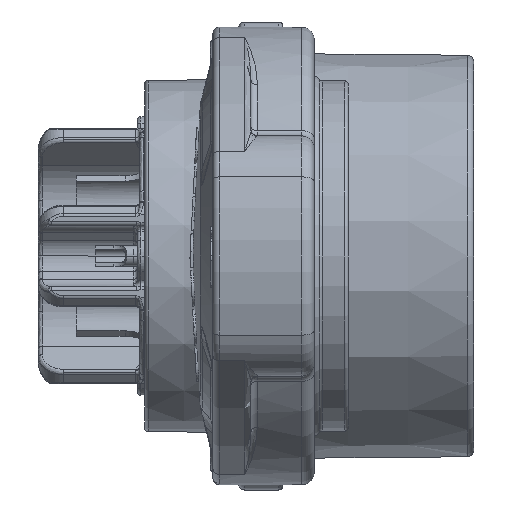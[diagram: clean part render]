
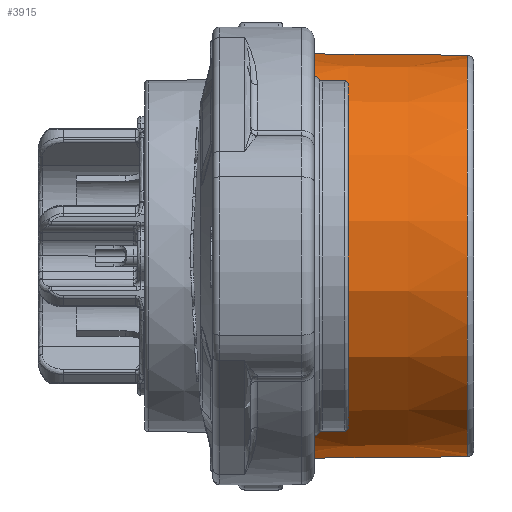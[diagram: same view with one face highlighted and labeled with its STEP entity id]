
A CAD part, front view. The second image highlights one B-rep face of the part: STEP entity #3915.
In plain terms, the highlighted conical face has half-angle 0.5 degrees and reference radius 16 mm.
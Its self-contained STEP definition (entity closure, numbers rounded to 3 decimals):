
#1006 = AXIS2_PLACEMENT_3D ( 'NONE', #67295, #38787, #27352 ) ;
#2657 = LINE ( 'NONE', #22821, #36290 ) ;
#3915 = ADVANCED_FACE ( 'NONE', ( #18780 ), #75175, .T. ) ;
#6166 = ORIENTED_EDGE ( 'NONE', *, *, #24798, .F. ) ;
#7173 = CARTESIAN_POINT ( 'NONE',  ( -14.604, 0., -15.996 ) ) ;
#7771 = ORIENTED_EDGE ( 'NONE', *, *, #32428, .T. ) ;
#13719 = EDGE_CURVE ( 'NONE', #42737, #24421, #46172, .T. ) ;
#15508 = VERTEX_POINT ( 'NONE', #45903 ) ;
#18470 = AXIS2_PLACEMENT_3D ( 'NONE', #69354, #23814, #46403 ) ;
#18780 = FACE_OUTER_BOUND ( 'NONE', #34297, .T. ) ;
#19609 = CIRCLE ( 'NONE', #18470, 15.873 ) ;
#22821 = CARTESIAN_POINT ( 'NONE',  ( -15.1, 0., -16. ) ) ;
#23814 = DIRECTION ( 'NONE',  ( -1., 0., 0. ) ) ;
#24421 = VERTEX_POINT ( 'NONE', #53615 ) ;
#24798 = EDGE_CURVE ( 'NONE', #15508, #71075, #2657, .T. ) ;
#26704 = CIRCLE ( 'NONE', #1006, 15.996 ) ;
#27352 = DIRECTION ( 'NONE',  ( 0., 0., 1. ) ) ;
#28875 = DIRECTION ( 'NONE',  ( -1., 0., -0.009 ) ) ;
#32428 = EDGE_CURVE ( 'NONE', #15508, #42737, #19609, .T. ) ;
#34297 = EDGE_LOOP ( 'NONE', ( #7771, #58189, #62599, #6166 ) ) ;
#36290 = VECTOR ( 'NONE', #28875, 1000. ) ;
#38787 = DIRECTION ( 'NONE',  ( 1., 0., 0. ) ) ;
#42380 = EDGE_CURVE ( 'NONE', #24421, #71075, #26704, .T. ) ;
#42737 = VERTEX_POINT ( 'NONE', #47880 ) ;
#45529 = CARTESIAN_POINT ( 'NONE',  ( -15.1, 0., 16. ) ) ;
#45903 = CARTESIAN_POINT ( 'NONE',  ( -0.496, 0., -15.873 ) ) ;
#46172 = LINE ( 'NONE', #45529, #70848 ) ;
#46403 = DIRECTION ( 'NONE',  ( 0., 0., -1. ) ) ;
#47880 = CARTESIAN_POINT ( 'NONE',  ( -0.496, 0., 15.873 ) ) ;
#49566 = AXIS2_PLACEMENT_3D ( 'NONE', #69744, #70511, #69996 ) ;
#51391 = DIRECTION ( 'NONE',  ( -1., 0., 0.009 ) ) ;
#53615 = CARTESIAN_POINT ( 'NONE',  ( -14.604, 0., 15.996 ) ) ;
#58189 = ORIENTED_EDGE ( 'NONE', *, *, #13719, .T. ) ;
#62599 = ORIENTED_EDGE ( 'NONE', *, *, #42380, .T. ) ;
#67295 = CARTESIAN_POINT ( 'NONE',  ( -14.604, 0., 0. ) ) ;
#69354 = CARTESIAN_POINT ( 'NONE',  ( -0.496, 0., 0. ) ) ;
#69744 = CARTESIAN_POINT ( 'NONE',  ( -15.1, 0., 0. ) ) ;
#69996 = DIRECTION ( 'NONE',  ( 0., 0., -1. ) ) ;
#70511 = DIRECTION ( 'NONE',  ( -1., 0., 0. ) ) ;
#70848 = VECTOR ( 'NONE', #51391, 1000. ) ;
#71075 = VERTEX_POINT ( 'NONE', #7173 ) ;
#75175 = CONICAL_SURFACE ( 'NONE', #49566, 16., 0.009 ) ;
